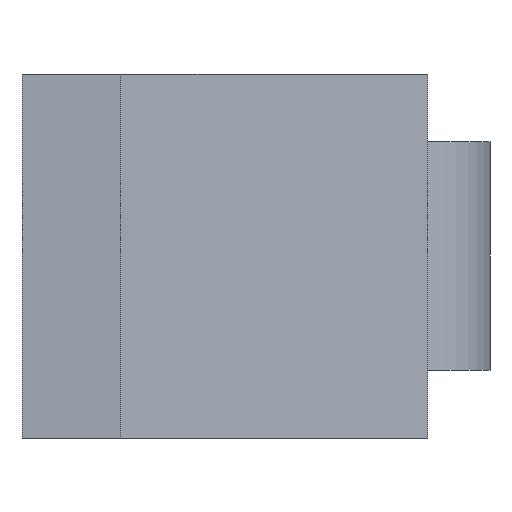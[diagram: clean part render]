
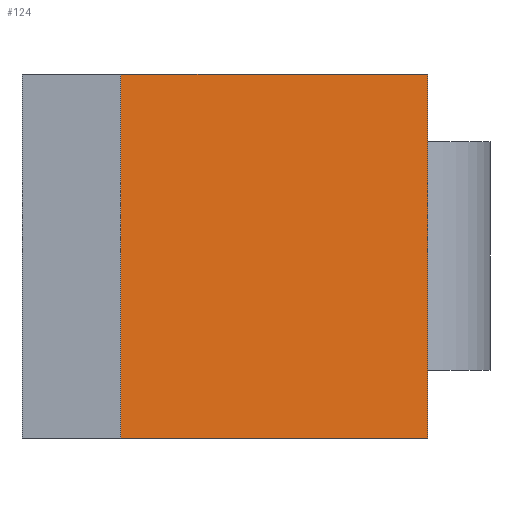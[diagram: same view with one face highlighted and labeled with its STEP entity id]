
A CAD part, front view. The second image highlights one B-rep face of the part: STEP entity #124.
In plain terms, the highlighted planar face has unit normal (0.139, -0.99, 0).
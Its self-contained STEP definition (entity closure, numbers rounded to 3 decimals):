
#124=ADVANCED_FACE('',(#186),#150,.T.);
#150=PLANE('',#522);
#186=FACE_OUTER_BOUND('',#214,.T.);
#214=EDGE_LOOP('',(#285,#286,#287,#288));
#285=ORIENTED_EDGE('',*,*,#413,.F.);
#286=ORIENTED_EDGE('',*,*,#384,.F.);
#287=ORIENTED_EDGE('',*,*,#406,.T.);
#288=ORIENTED_EDGE('',*,*,#418,.T.);
#344=VERTEX_POINT('',#673);
#346=VERTEX_POINT('',#677);
#366=VERTEX_POINT('',#722);
#371=VERTEX_POINT('',#736);
#384=EDGE_CURVE('',#346,#344,#436,.T.);
#406=EDGE_CURVE('',#346,#366,#453,.T.);
#413=EDGE_CURVE('',#344,#371,#459,.T.);
#418=EDGE_CURVE('',#366,#371,#464,.T.);
#436=LINE('',#678,#474);
#453=LINE('',#723,#491);
#459=LINE('',#735,#497);
#464=LINE('',#744,#502);
#474=VECTOR('',#555,1.);
#491=VECTOR('',#588,1.);
#497=VECTOR('',#598,1.);
#502=VECTOR('',#607,1.);
#522=AXIS2_PLACEMENT_3D('',#745,#608,#609);
#555=DIRECTION('',(0.,0.,-1.));
#588=DIRECTION('',(-0.99,-0.139,0.));
#598=DIRECTION('',(-0.99,-0.139,0.));
#607=DIRECTION('',(0.,0.,-1.));
#608=DIRECTION('',(0.139,-0.99,0.));
#609=DIRECTION('',(0.99,0.139,0.));
#673=CARTESIAN_POINT('',(19.,-25.854,0.));
#677=CARTESIAN_POINT('',(19.,-25.854,35.));
#678=CARTESIAN_POINT('',(19.,-25.854,35.));
#722=CARTESIAN_POINT('',(-10.5,-30.,35.));
#723=CARTESIAN_POINT('',(19.,-25.854,35.));
#735=CARTESIAN_POINT('',(19.,-25.854,0.));
#736=CARTESIAN_POINT('',(-10.5,-30.,0.));
#744=CARTESIAN_POINT('',(-10.5,-30.,35.));
#745=CARTESIAN_POINT('',(19.,-25.854,35.));
